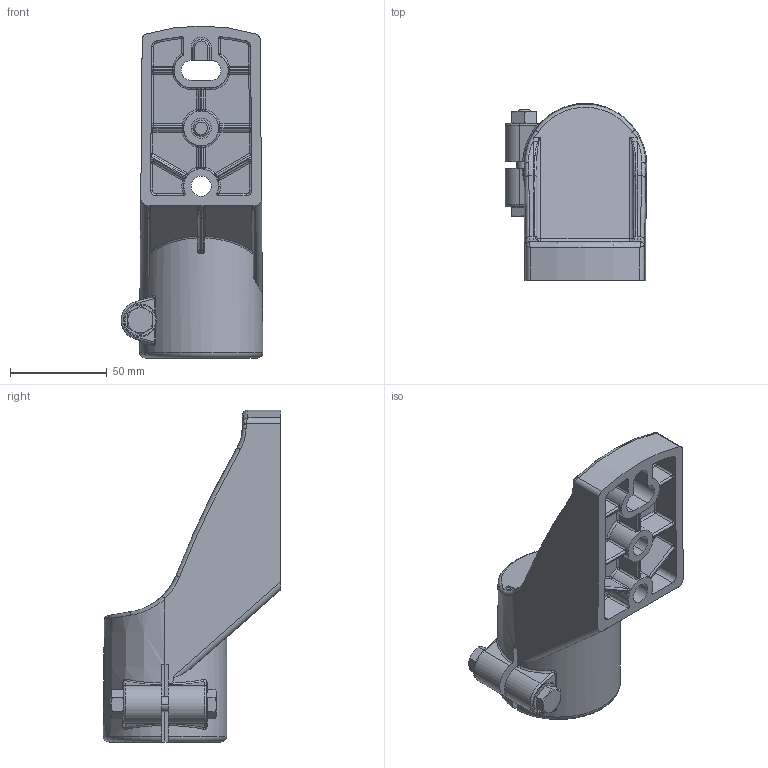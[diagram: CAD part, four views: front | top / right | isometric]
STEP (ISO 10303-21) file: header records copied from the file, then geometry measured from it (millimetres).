
FILE_DESCRIPTION(('CATIA V5 STEP Exchange'),'2;1');
FILE_NAME('X:\CODICI MOVEX\3D per clienti\3D definitivi\Part 400\P40701_01.stp','2016-06-20T13:42:16+00:00',('none'),('none'),'Version 5-6 Release 2012','CATIA V5 STEP AP203','none');
FILE_SCHEMA(('CONFIG_CONTROL_DESIGN'));
Length unit declared in the file: millimetre
Products named in the file (1): P40701_01
Assembly tree (5 placements, depth 2):
  P40701_01
    #57
    #32547  x2
    #32731
    #33315
Bounding box: 73.44 x 91.96 x 172 mm (x, y, z)
Volume: 216700.8 mm3; surface area: 74374.3 mm2
Topology: 5 solids, 5 shells, 978 faces, 2686 edges, 1685 vertices
Faces by surface type: plane 609, cylinder 198, torus 60, sphere 42, bspline 41, cone 20, extrusion 8
Entity records: 33842 total; most frequent: CARTESIAN_POINT 12657, ORIENTED_EDGE 5256, DIRECTION 2932, EDGE_CURVE 2628, VERTEX_POINT 1677, B_SPLINE_CURVE_WITH_KNOTS 1280, AXIS2_PLACEMENT_3D 1233, EDGE_LOOP 997
